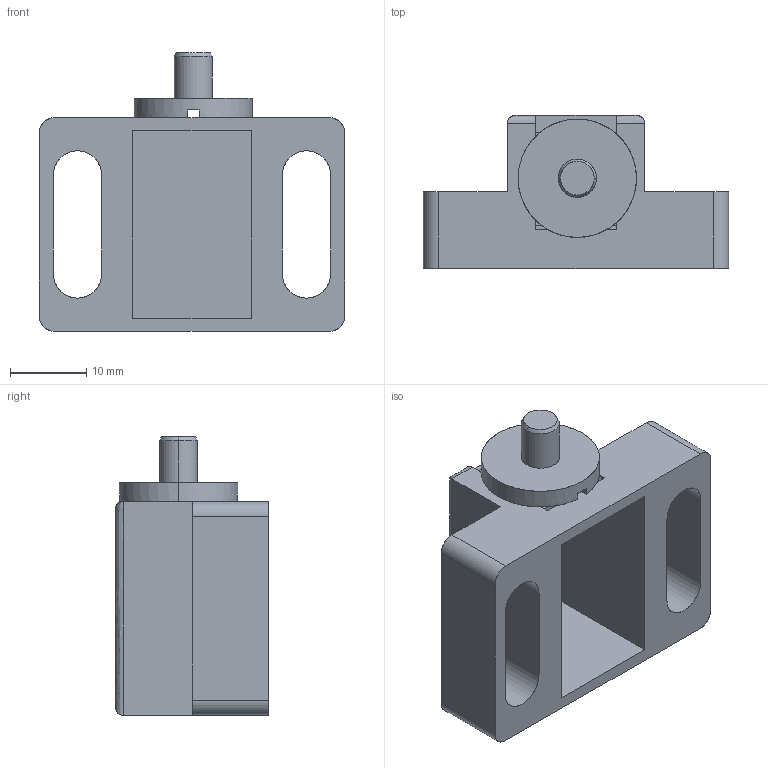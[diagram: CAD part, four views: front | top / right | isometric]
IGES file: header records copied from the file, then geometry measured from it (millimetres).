
Start section: SolidWorks IGES file using analytic representation for surfaces
Global section: file name: C:\Users\Aiezzat\Desktop\LETROMEC CATALOGUE\LATCH\CP-MGL.IGS; native system: SolidWorks 2013; preprocessor: SolidWorks 2013; author: Aiezzat; date: 180314.163853; units: millimetre
Bounding box: 40 x 20 x 36.5 mm (x, y, z)
Surface area: 7251.5 mm2 (no closed solid volume)
Topology: 0 solids, 0 shells, 78 faces, 726 edges, 726 vertices
Faces by surface type: bspline 58, revolution 20
